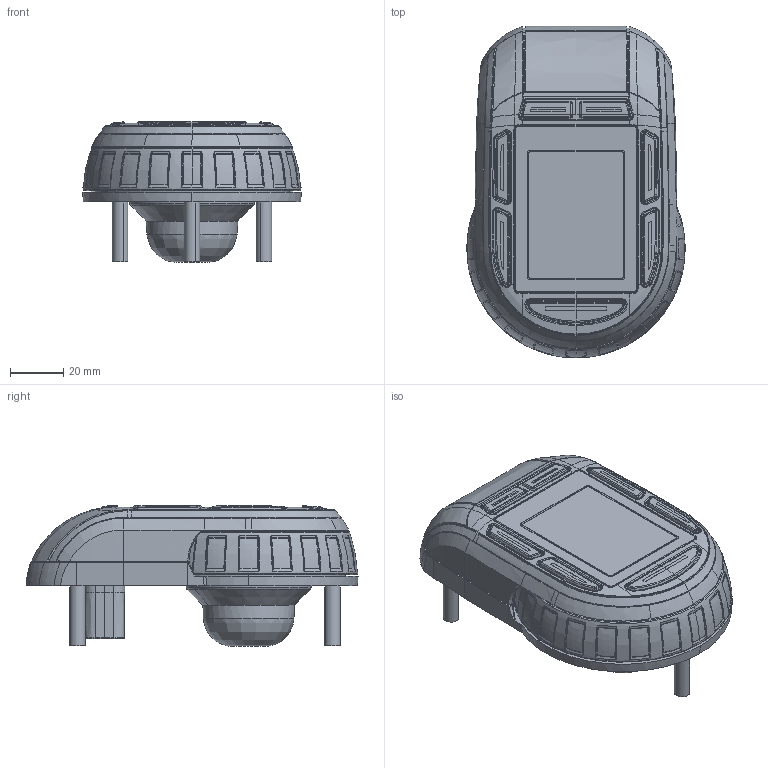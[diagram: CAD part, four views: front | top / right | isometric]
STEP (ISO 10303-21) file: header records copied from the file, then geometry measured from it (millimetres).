
FILE_DESCRIPTION(('CATIA V5 STEP Exchange'),'2;1');
FILE_NAME('G:\LAVORO\0 - 0 - 28 - AMA encoder 2018\DashControl_2018_Pelle esterna_no_connettore.stp','2018-09-26T08:14:56+00:00',('none'),('none'),'CATIA Version 5 Release 21 SP 3 (IN-10)','CATIA V5 STEP AP203','none');
FILE_SCHEMA(('CONFIG_CONTROL_DESIGN'));
Products named in the file (1): Part2
Bounding box: 82 x 124.51 x 52.75 mm (x, y, z)
Volume: 233760.1 mm3; surface area: 44760.9 mm2
Topology: 1 solids, 7 shells, 1796 faces, 4773 edges, 2943 vertices
Faces by surface type: bspline 956, plane 284, cylinder 192, extrusion 122, sphere 120, cone 70, revolution 34, torus 18
Entity records: 115723 total; most frequent: CARTESIAN_POINT 81939, ORIENTED_EDGE 9306, EDGE_CURVE 4653, B_SPLINE_CURVE_WITH_KNOTS 3419, VERTEX_POINT 2943, DIRECTION 2684, EDGE_LOOP 1874, ADVANCED_FACE 1796
